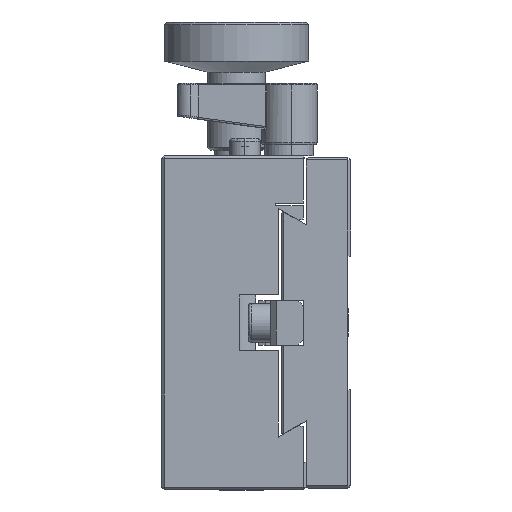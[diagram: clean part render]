
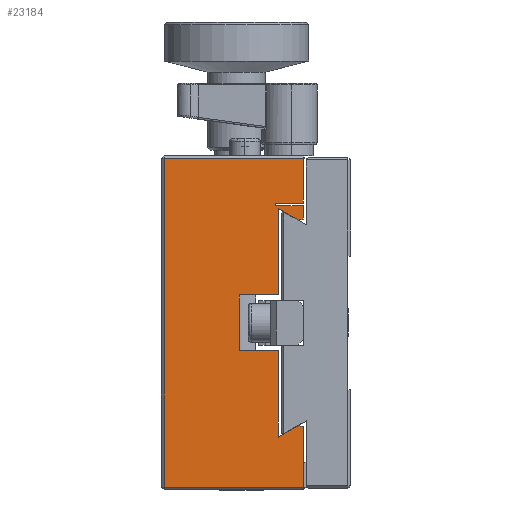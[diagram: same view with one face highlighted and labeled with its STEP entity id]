
A CAD part, left-side view. The second image highlights one B-rep face of the part: STEP entity #23184.
In plain terms, the highlighted planar face has unit normal (-1, 0, 0).
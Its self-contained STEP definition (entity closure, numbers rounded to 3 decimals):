
#48 = LINE ( 'NONE', #29662, #17635 ) ;
#152 = ORIENTED_EDGE ( 'NONE', *, *, #26165, .T. ) ;
#326 = LINE ( 'NONE', #12409, #2945 ) ;
#561 = LINE ( 'NONE', #25048, #25336 ) ;
#593 = CARTESIAN_POINT ( 'NONE',  ( -70., 33.5, -29.989 ) ) ;
#763 = LINE ( 'NONE', #24861, #13526 ) ;
#772 = VECTOR ( 'NONE', #29106, 1000. ) ;
#833 = DIRECTION ( 'NONE',  ( 0., 1., 0. ) ) ;
#856 = LINE ( 'NONE', #16094, #12852 ) ;
#1369 = DIRECTION ( 'NONE',  ( 0., -1., 0. ) ) ;
#2277 = VECTOR ( 'NONE', #21854, 1000. ) ;
#2519 = VERTEX_POINT ( 'NONE', #11554 ) ;
#2615 = VERTEX_POINT ( 'NONE', #14688 ) ;
#2750 = LINE ( 'NONE', #11339, #7642 ) ;
#2885 = DIRECTION ( 'NONE',  ( 0., 0.866, -0.5 ) ) ;
#2945 = VECTOR ( 'NONE', #12093, 1000. ) ;
#3354 = DIRECTION ( 'NONE',  ( -1., 0., 0. ) ) ;
#3504 = LINE ( 'NONE', #4127, #10965 ) ;
#3588 = VERTEX_POINT ( 'NONE', #19008 ) ;
#3884 = EDGE_CURVE ( 'NONE', #2519, #12398, #19254, .T. ) ;
#3943 = DIRECTION ( 'NONE',  ( 0., -1., 0. ) ) ;
#4062 = ORIENTED_EDGE ( 'NONE', *, *, #9054, .T. ) ;
#4127 = CARTESIAN_POINT ( 'NONE',  ( -70., 36.95, -10.999 ) ) ;
#4199 = EDGE_CURVE ( 'NONE', #29276, #24140, #9561, .T. ) ;
#4320 = CARTESIAN_POINT ( 'NONE',  ( -70., 13., -20.489 ) ) ;
#4636 = DIRECTION ( 'NONE',  ( 0., -0.966, 0.259 ) ) ;
#5242 = ORIENTED_EDGE ( 'NONE', *, *, #16127, .T. ) ;
#5922 = CARTESIAN_POINT ( 'NONE',  ( -70., 34., 29.511 ) ) ;
#5985 = VECTOR ( 'NONE', #3943, 1000. ) ;
#6269 = VECTOR ( 'NONE', #13240, 1000. ) ;
#6416 = VECTOR ( 'NONE', #17695, 1000. ) ;
#6787 = CARTESIAN_POINT ( 'NONE',  ( -70., 8.5, -18.623 ) ) ;
#7261 = VERTEX_POINT ( 'NONE', #13205 ) ;
#7309 = VECTOR ( 'NONE', #2885, 1000. ) ;
#7613 = ORIENTED_EDGE ( 'NONE', *, *, #17087, .T. ) ;
#7642 = VECTOR ( 'NONE', #28252, 1000. ) ;
#7644 = ORIENTED_EDGE ( 'NONE', *, *, #3884, .F. ) ;
#7847 = VERTEX_POINT ( 'NONE', #14669 ) ;
#7923 = VERTEX_POINT ( 'NONE', #26872 ) ;
#7981 = CARTESIAN_POINT ( 'NONE',  ( -70., 34., 21.011 ) ) ;
#8253 = ORIENTED_EDGE ( 'NONE', *, *, #21888, .T. ) ;
#8543 = LINE ( 'NONE', #14047, #22379 ) ;
#8567 = EDGE_CURVE ( 'NONE', #2519, #7923, #48, .T. ) ;
#8670 = LINE ( 'NONE', #593, #2277 ) ;
#8682 = DIRECTION ( 'NONE',  ( 0., -1., 0. ) ) ;
#8936 = CARTESIAN_POINT ( 'NONE',  ( -70., 8.5, -29.489 ) ) ;
#8954 = DIRECTION ( 'NONE',  ( 0., 0.966, 0.259 ) ) ;
#8977 = EDGE_CURVE ( 'NONE', #14664, #26403, #8670, .T. ) ;
#9054 = EDGE_CURVE ( 'NONE', #2615, #26153, #22142, .T. ) ;
#9561 = LINE ( 'NONE', #16985, #7309 ) ;
#9716 = DIRECTION ( 'NONE',  ( 0., 0., 1. ) ) ;
#9814 = CARTESIAN_POINT ( 'NONE',  ( -70., 8.5, 0.011 ) ) ;
#9922 = VERTEX_POINT ( 'NONE', #8936 ) ;
#10965 = VECTOR ( 'NONE', #8954, 1000. ) ;
#11339 = CARTESIAN_POINT ( 'NONE',  ( -70., 20., -4.989 ) ) ;
#11374 = EDGE_CURVE ( 'NONE', #7923, #7261, #29103, .T. ) ;
#11554 = CARTESIAN_POINT ( 'NONE',  ( -70., 13., 5.011 ) ) ;
#12093 = DIRECTION ( 'NONE',  ( 0., 0., 1. ) ) ;
#12398 = VERTEX_POINT ( 'NONE', #30913 ) ;
#12409 = CARTESIAN_POINT ( 'NONE',  ( -70., 13., -20.489 ) ) ;
#12576 = DIRECTION ( 'NONE',  ( 0., 0., 1. ) ) ;
#12781 = PLANE ( 'NONE',  #21506 ) ;
#12852 = VECTOR ( 'NONE', #1369, 1000. ) ;
#13190 = EDGE_CURVE ( 'NONE', #7847, #14664, #20465, .T. ) ;
#13205 = CARTESIAN_POINT ( 'NONE',  ( -70., 9.366, 18.413 ) ) ;
#13240 = DIRECTION ( 'NONE',  ( 0., 1., 0. ) ) ;
#13526 = VECTOR ( 'NONE', #12576, 1000. ) ;
#13699 = EDGE_CURVE ( 'NONE', #21328, #2615, #20053, .T. ) ;
#14047 = CARTESIAN_POINT ( 'NONE',  ( -70., 36.95, 11.022 ) ) ;
#14502 = EDGE_CURVE ( 'NONE', #12398, #23041, #2750, .T. ) ;
#14504 = DIRECTION ( 'NONE',  ( 0., -0.866, -0.5 ) ) ;
#14528 = ORIENTED_EDGE ( 'NONE', *, *, #26932, .T. ) ;
#14664 = VERTEX_POINT ( 'NONE', #30953 ) ;
#14669 = CARTESIAN_POINT ( 'NONE',  ( -70., 8.5, 29.511 ) ) ;
#14688 = CARTESIAN_POINT ( 'NONE',  ( -70., 13.5, 21.011 ) ) ;
#14733 = ORIENTED_EDGE ( 'NONE', *, *, #8977, .T. ) ;
#14848 = CARTESIAN_POINT ( 'NONE',  ( -70., 13.5, 21.511 ) ) ;
#15067 = DIRECTION ( 'NONE',  ( 0., 0., 1. ) ) ;
#15092 = VERTEX_POINT ( 'NONE', #18540 ) ;
#15645 = CARTESIAN_POINT ( 'NONE',  ( -70., 34., 21.511 ) ) ;
#15725 = EDGE_LOOP ( 'NONE', ( #28100, #28456, #152, #21453, #4062, #14528, #5242, #30764, #14733, #26235, #29792, #8253, #21114, #29034, #7613, #20671, #30861, #7644, #25141 ) ) ;
#16094 = CARTESIAN_POINT ( 'NONE',  ( -70., 8., -29.489 ) ) ;
#16127 = EDGE_CURVE ( 'NONE', #3588, #7847, #19865, .T. ) ;
#16985 = CARTESIAN_POINT ( 'NONE',  ( -70., 8., -17.602 ) ) ;
#17006 = CARTESIAN_POINT ( 'NONE',  ( -70., 8.5, -24.989 ) ) ;
#17087 = EDGE_CURVE ( 'NONE', #24140, #15092, #326, .T. ) ;
#17635 = VECTOR ( 'NONE', #20184, 1000. ) ;
#17695 = DIRECTION ( 'NONE',  ( 0., 0., 1. ) ) ;
#18540 = CARTESIAN_POINT ( 'NONE',  ( -70., 13., -4.989 ) ) ;
#18652 = CARTESIAN_POINT ( 'NONE',  ( -70., 8.5, -24.989 ) ) ;
#18681 = LINE ( 'NONE', #15645, #5985 ) ;
#19008 = CARTESIAN_POINT ( 'NONE',  ( -70., 8.5, 21.511 ) ) ;
#19254 = LINE ( 'NONE', #20881, #24174 ) ;
#19655 = VECTOR ( 'NONE', #9716, 1000. ) ;
#19865 = LINE ( 'NONE', #29595, #6416 ) ;
#19987 = CARTESIAN_POINT ( 'NONE',  ( -70., 34., 0.011 ) ) ;
#20053 = LINE ( 'NONE', #7981, #30573 ) ;
#20073 = VERTEX_POINT ( 'NONE', #18652 ) ;
#20184 = DIRECTION ( 'NONE',  ( 0., 0., 1. ) ) ;
#20465 = LINE ( 'NONE', #5922, #6269 ) ;
#20671 = ORIENTED_EDGE ( 'NONE', *, *, #29076, .F. ) ;
#20881 = CARTESIAN_POINT ( 'NONE',  ( -70., 13., 5.011 ) ) ;
#20987 = DIRECTION ( 'NONE',  ( 0., 1., 0. ) ) ;
#21114 = ORIENTED_EDGE ( 'NONE', *, *, #29715, .T. ) ;
#21306 = CARTESIAN_POINT ( 'NONE',  ( -70., 9.366, -18.391 ) ) ;
#21328 = VERTEX_POINT ( 'NONE', #21353 ) ;
#21353 = CARTESIAN_POINT ( 'NONE',  ( -70., 8.5, 21.011 ) ) ;
#21453 = ORIENTED_EDGE ( 'NONE', *, *, #13699, .T. ) ;
#21506 = AXIS2_PLACEMENT_3D ( 'NONE', #19987, #3354, #15067 ) ;
#21846 = EDGE_CURVE ( 'NONE', #9922, #20073, #30209, .T. ) ;
#21854 = DIRECTION ( 'NONE',  ( 0., 0., -1. ) ) ;
#21888 = EDGE_CURVE ( 'NONE', #20073, #28695, #26453, .T. ) ;
#21956 = VECTOR ( 'NONE', #14504, 1000. ) ;
#22103 = CARTESIAN_POINT ( 'NONE',  ( -70., 20., -4.989 ) ) ;
#22142 = LINE ( 'NONE', #24289, #772 ) ;
#22379 = VECTOR ( 'NONE', #4636, 1000. ) ;
#22517 = CARTESIAN_POINT ( 'NONE',  ( -70., 8.5, 18.645 ) ) ;
#23041 = VERTEX_POINT ( 'NONE', #22103 ) ;
#23184 = ADVANCED_FACE ( 'NONE', ( #26363 ), #12781, .T. ) ;
#24077 = DIRECTION ( 'NONE',  ( 0., 0., 1. ) ) ;
#24140 = VERTEX_POINT ( 'NONE', #4320 ) ;
#24174 = VECTOR ( 'NONE', #20987, 1000. ) ;
#24289 = CARTESIAN_POINT ( 'NONE',  ( -70., 13.5, 0.011 ) ) ;
#24861 = CARTESIAN_POINT ( 'NONE',  ( -70., 8.5, 0.011 ) ) ;
#25048 = CARTESIAN_POINT ( 'NONE',  ( -70., 13., -4.989 ) ) ;
#25141 = ORIENTED_EDGE ( 'NONE', *, *, #8567, .T. ) ;
#25336 = VECTOR ( 'NONE', #8682, 1000. ) ;
#26092 = VECTOR ( 'NONE', #24077, 1000. ) ;
#26153 = VERTEX_POINT ( 'NONE', #14848 ) ;
#26165 = EDGE_CURVE ( 'NONE', #28029, #21328, #763, .T. ) ;
#26235 = ORIENTED_EDGE ( 'NONE', *, *, #30274, .T. ) ;
#26363 = FACE_OUTER_BOUND ( 'NONE', #15725, .T. ) ;
#26403 = VERTEX_POINT ( 'NONE', #30382 ) ;
#26453 = LINE ( 'NONE', #9814, #19655 ) ;
#26872 = CARTESIAN_POINT ( 'NONE',  ( -70., 13., 20.511 ) ) ;
#26932 = EDGE_CURVE ( 'NONE', #26153, #3588, #18681, .T. ) ;
#27710 = EDGE_CURVE ( 'NONE', #7261, #28029, #8543, .T. ) ;
#28029 = VERTEX_POINT ( 'NONE', #22517 ) ;
#28100 = ORIENTED_EDGE ( 'NONE', *, *, #11374, .T. ) ;
#28252 = DIRECTION ( 'NONE',  ( 0., 0., -1. ) ) ;
#28456 = ORIENTED_EDGE ( 'NONE', *, *, #27710, .T. ) ;
#28695 = VERTEX_POINT ( 'NONE', #6787 ) ;
#29034 = ORIENTED_EDGE ( 'NONE', *, *, #4199, .T. ) ;
#29076 = EDGE_CURVE ( 'NONE', #23041, #15092, #561, .T. ) ;
#29103 = LINE ( 'NONE', #29205, #21956 ) ;
#29106 = DIRECTION ( 'NONE',  ( 0., 0., 1. ) ) ;
#29205 = CARTESIAN_POINT ( 'NONE',  ( -70., 8., 17.625 ) ) ;
#29276 = VERTEX_POINT ( 'NONE', #21306 ) ;
#29595 = CARTESIAN_POINT ( 'NONE',  ( -70., 8.5, 0.011 ) ) ;
#29662 = CARTESIAN_POINT ( 'NONE',  ( -70., 13., -20.489 ) ) ;
#29715 = EDGE_CURVE ( 'NONE', #28695, #29276, #3504, .T. ) ;
#29792 = ORIENTED_EDGE ( 'NONE', *, *, #21846, .T. ) ;
#30209 = LINE ( 'NONE', #17006, #26092 ) ;
#30274 = EDGE_CURVE ( 'NONE', #26403, #9922, #856, .T. ) ;
#30382 = CARTESIAN_POINT ( 'NONE',  ( -70., 33.5, -29.489 ) ) ;
#30573 = VECTOR ( 'NONE', #833, 1000. ) ;
#30764 = ORIENTED_EDGE ( 'NONE', *, *, #13190, .T. ) ;
#30861 = ORIENTED_EDGE ( 'NONE', *, *, #14502, .F. ) ;
#30913 = CARTESIAN_POINT ( 'NONE',  ( -70., 20., 5.011 ) ) ;
#30953 = CARTESIAN_POINT ( 'NONE',  ( -70., 33.5, 29.511 ) ) ;
